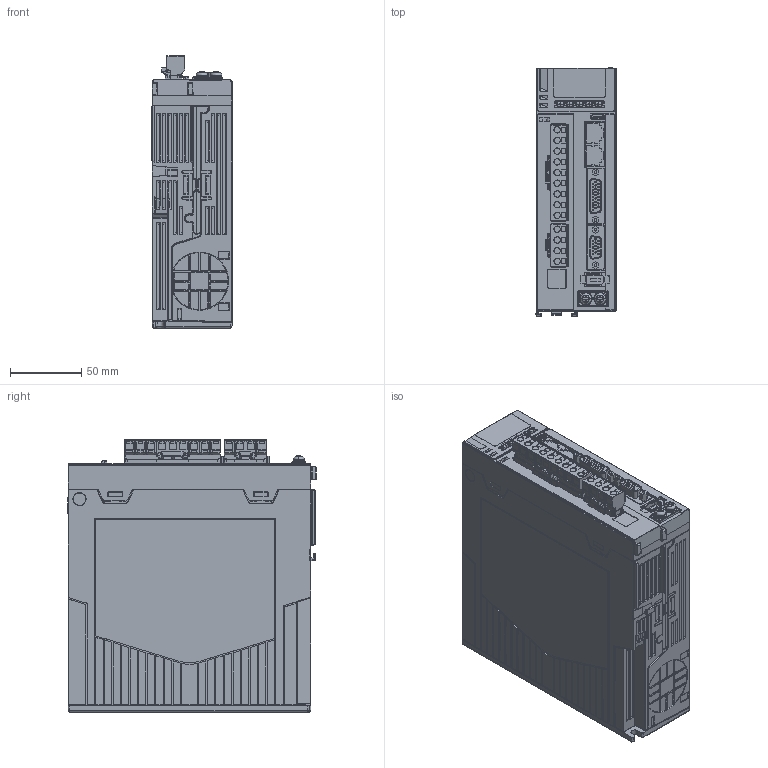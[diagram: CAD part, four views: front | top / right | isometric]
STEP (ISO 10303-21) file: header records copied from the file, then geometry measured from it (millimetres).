
FILE_DESCRIPTION((''),'2;1');
FILE_NAME('SV670N-INT-SIZE-C_ASM_1_ASM','2024-02-03T',('10009991'),(''),'CREO PARAMETRIC BY PTC INC, 2015290','CREO PARAMETRIC BY PTC INC, 2015290','');
FILE_SCHEMA(('AUTOMOTIVE_DESIGN { 1 0 10303 214 1 1 1 1 }'));
Products named in the file (5): SV670N-INT-SIZE-C_1; 9EDGK-7_5-04P_20180409_2_1_1_1_; 9EDGK-7_5-09P_20180409_2_1_1_1_; DZ_ASM_2_ASM_1_1_ASM_1_ASM_1_ASM; SV670N-INT-SIZE-C_ASM_1_ASM
Assembly tree (4 placements, depth 3):
  SV670N-INT-SIZE-C_ASM_1_ASM
    SV670N-INT-SIZE-C_1
    DZ_ASM_2_ASM_1_1_ASM_1_ASM_1_ASM
      9EDGK-7_5-04P_20180409_2_1_1_1_
      9EDGK-7_5-09P_20180409_2_1_1_1_
Bounding box: 56.09 x 174.1 x 190.5 mm (x, y, z)
Volume: 1654322.4 mm3; surface area: 119559.5 mm2
Topology: 3 solids, 9 shells, 5090 faces, 13605 edges, 8709 vertices
Faces by surface type: plane 3311, cylinder 1095, cone 206, bspline 205, torus 122, sphere 77, extrusion 70, revolution 4
Entity records: 227013 total; most frequent: CARTESIAN_POINT 63223, ORIENTED_EDGE 27034, DIRECTION 23948, EDGE_CURVE 13517, VECTOR 10144, LINE 10074, PRESENTATION_STYLE_ASSIGNMENT 8872, STYLED_ITEM 8872
